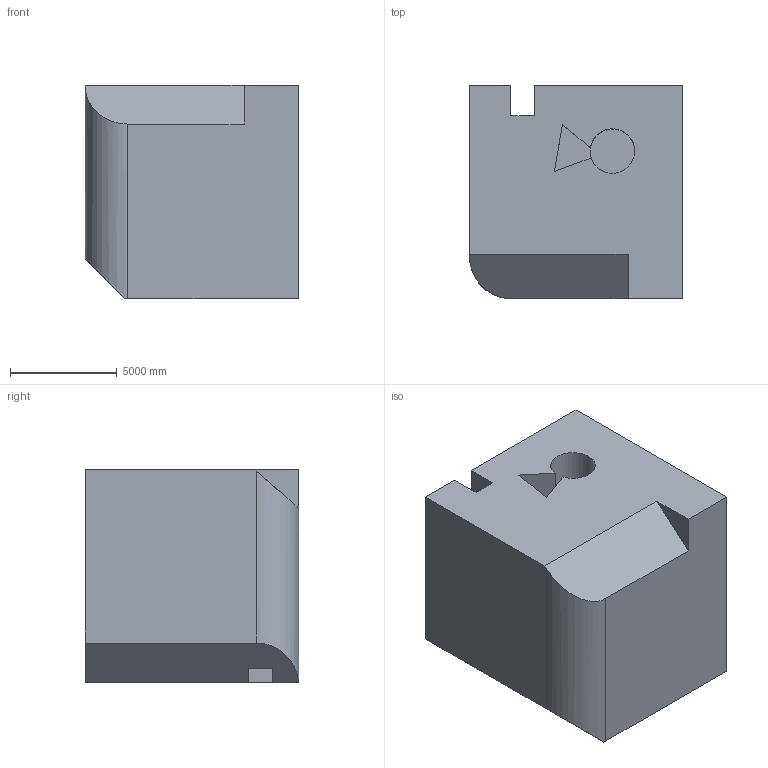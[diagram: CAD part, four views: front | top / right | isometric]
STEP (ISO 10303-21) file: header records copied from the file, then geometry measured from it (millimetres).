
FILE_DESCRIPTION (( 'STEP AP203' ), '1' );
FILE_NAME ('1792.STEP', '2022-08-19T12:55:37', ( 'user' ), ( '' ), 'SwSTEP 2.0', 'SolidWorks 2021', '' );
FILE_SCHEMA (( 'CONFIG_CONTROL_DESIGN' ));
Length unit declared in the file: centimetre
Products named in the file (1): 1792
Bounding box: 10000 x 10000 x 10000 mm (x, y, z)
Volume: 893593529547.7 mm3; surface area: 706035223.5 mm2
Topology: 1 solids, 1 shells, 30 faces, 81 edges, 54 vertices
Faces by surface type: plane 27, cylinder 3
Entity records: 1009 total; most frequent: CARTESIAN_POINT 172, ORIENTED_EDGE 162, DIRECTION 148, EDGE_CURVE 81, VECTOR 72, LINE 72, VERTEX_POINT 54, AXIS2_PLACEMENT_3D 38
